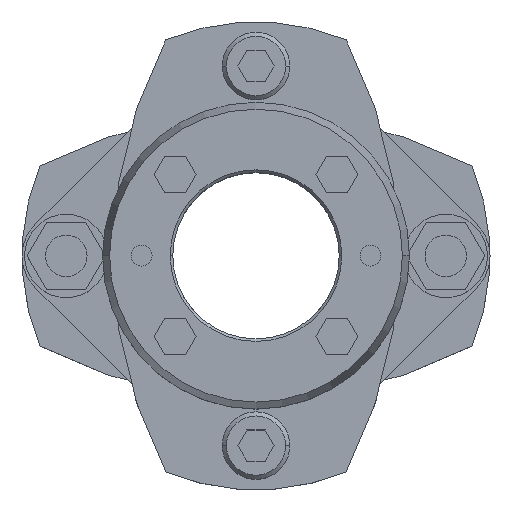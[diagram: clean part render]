
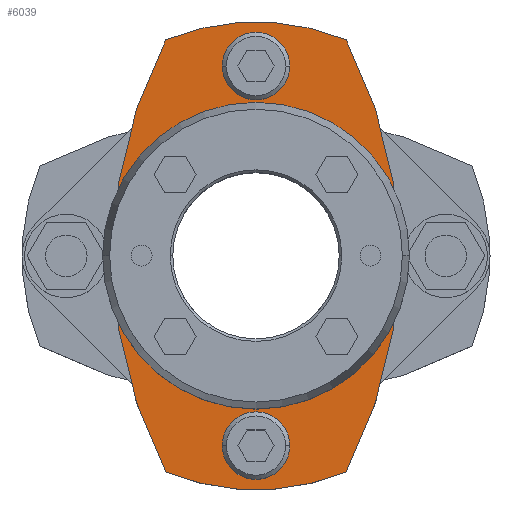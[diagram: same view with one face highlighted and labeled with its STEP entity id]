
A CAD part, top view. The second image highlights one B-rep face of the part: STEP entity #6039.
In plain terms, the highlighted planar face has unit normal (0, 0, 1).
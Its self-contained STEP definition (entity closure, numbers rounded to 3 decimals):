
#771=CARTESIAN_POINT('',(27.5,0.,14.25));
#772=VERTEX_POINT('',#771);
#781=CARTESIAN_POINT('',(17.35,-41.521,14.25));
#782=VERTEX_POINT('',#781);
#783=CARTESIAN_POINT('',(-62.5,0.,14.25));
#784=DIRECTION('',(0.0,0.0,-1.0));
#785=DIRECTION('',(-1.0,0.0,0.0));
#786=AXIS2_PLACEMENT_3D('',#783,#784,#785);
#787=CIRCLE('',#786,90.);
#788=EDGE_CURVE('',#772,#782,#787,.T.);
#815=CARTESIAN_POINT('',(-27.5,0.,14.25));
#816=VERTEX_POINT('',#815);
#832=CARTESIAN_POINT('',(-17.35,-41.521,14.25));
#833=VERTEX_POINT('',#832);
#840=CARTESIAN_POINT('',(62.5,0.,14.25));
#841=DIRECTION('',(0.0,0.0,-1.0));
#842=DIRECTION('',(-1.0,0.0,0.0));
#843=AXIS2_PLACEMENT_3D('',#840,#841,#842);
#844=CIRCLE('',#843,90.);
#845=EDGE_CURVE('',#833,#816,#844,.T.);
#1079=CARTESIAN_POINT('',(-26.,0.,14.25));
#1080=VERTEX_POINT('',#1079);
#1130=CARTESIAN_POINT('',(26.,0.,14.25));
#1131=VERTEX_POINT('',#1130);
#1138=CARTESIAN_POINT('',(0.,0.,14.25));
#1139=DIRECTION('',(0.0,0.0,-1.0));
#1140=DIRECTION('',(-1.0,0.0,0.0));
#1141=AXIS2_PLACEMENT_3D('',#1138,#1139,#1140);
#1142=CIRCLE('',#1141,26.0);
#1143=EDGE_CURVE('',#1080,#1131,#1142,.T.);
#1155=CARTESIAN_POINT('',(-6.5,-36.5,14.25));
#1156=VERTEX_POINT('',#1155);
#1172=CARTESIAN_POINT('',(6.5,-36.5,14.25));
#1173=VERTEX_POINT('',#1172);
#1180=CARTESIAN_POINT('',(0.,-36.5,14.25));
#1181=DIRECTION('',(0.0,0.0,-1.0));
#1182=DIRECTION('',(-1.0,0.0,0.0));
#1183=AXIS2_PLACEMENT_3D('',#1180,#1181,#1182);
#1184=CIRCLE('',#1183,6.5);
#1185=EDGE_CURVE('',#1156,#1173,#1184,.T.);
#1229=CARTESIAN_POINT('',(-6.5,36.5,14.25));
#1230=VERTEX_POINT('',#1229);
#1246=CARTESIAN_POINT('',(6.5,36.5,14.25));
#1247=VERTEX_POINT('',#1246);
#1254=CARTESIAN_POINT('',(0.,36.5,14.25));
#1255=DIRECTION('',(0.0,0.0,-1.0));
#1256=DIRECTION('',(-1.0,0.0,0.0));
#1257=AXIS2_PLACEMENT_3D('',#1254,#1255,#1256);
#1258=CIRCLE('',#1257,6.5);
#1259=EDGE_CURVE('',#1230,#1247,#1258,.T.);
#5458=CARTESIAN_POINT('',(0.,36.5,14.25));
#5459=DIRECTION('',(0.0,0.0,-1.0));
#5460=DIRECTION('',(-1.0,0.0,0.0));
#5461=AXIS2_PLACEMENT_3D('',#5458,#5459,#5460);
#5462=CIRCLE('',#5461,6.5);
#5463=EDGE_CURVE('',#1247,#1230,#5462,.T.);
#5518=CARTESIAN_POINT('',(0.,-36.5,14.25));
#5519=DIRECTION('',(0.0,0.0,-1.0));
#5520=DIRECTION('',(-1.0,0.0,0.0));
#5521=AXIS2_PLACEMENT_3D('',#5518,#5519,#5520);
#5522=CIRCLE('',#5521,6.5);
#5523=EDGE_CURVE('',#1173,#1156,#5522,.T.);
#5722=CARTESIAN_POINT('',(0.,0.,14.25));
#5723=DIRECTION('',(0.0,0.0,-1.0));
#5724=DIRECTION('',(-1.0,0.0,0.0));
#5725=AXIS2_PLACEMENT_3D('',#5722,#5723,#5724);
#5726=CIRCLE('',#5725,26.0);
#5727=EDGE_CURVE('',#1131,#1080,#5726,.T.);
#5933=CARTESIAN_POINT('',(0.,0.,14.25));
#5934=DIRECTION('',(0.0,0.0,-1.0));
#5935=DIRECTION('',(-1.0,0.0,0.0));
#5936=AXIS2_PLACEMENT_3D('',#5933,#5934,#5935);
#5937=CIRCLE('',#5936,45.);
#5938=EDGE_CURVE('',#782,#833,#5937,.T.);
#5952=CARTESIAN_POINT('',(-17.35,41.521,14.25));
#5953=VERTEX_POINT('',#5952);
#5954=CARTESIAN_POINT('',(62.5,0.,14.25));
#5955=DIRECTION('',(0.0,0.0,-1.0));
#5956=DIRECTION('',(-1.0,0.0,0.0));
#5957=AXIS2_PLACEMENT_3D('',#5954,#5955,#5956);
#5958=CIRCLE('',#5957,90.);
#5959=EDGE_CURVE('',#816,#5953,#5958,.T.);
#5976=CARTESIAN_POINT('',(17.35,41.521,14.25));
#5977=VERTEX_POINT('',#5976);
#5978=CARTESIAN_POINT('',(0.,0.,14.25));
#5979=DIRECTION('',(0.0,0.0,-1.0));
#5980=DIRECTION('',(-1.0,0.0,0.0));
#5981=AXIS2_PLACEMENT_3D('',#5978,#5979,#5980);
#5982=CIRCLE('',#5981,45.);
#5983=EDGE_CURVE('',#5953,#5977,#5982,.T.);
#6004=CARTESIAN_POINT('',(-62.5,0.,14.25));
#6005=DIRECTION('',(0.0,0.0,-1.0));
#6006=DIRECTION('',(-1.0,0.0,0.0));
#6007=AXIS2_PLACEMENT_3D('',#6004,#6005,#6006);
#6008=CIRCLE('',#6007,90.);
#6009=EDGE_CURVE('',#5977,#772,#6008,.T.);
#6014=CARTESIAN_POINT('',(0.,0.,14.25));
#6015=DIRECTION('',(0.0,0.0,1.0));
#6016=DIRECTION('',(-1.0,0.0,0.0));
#6017=AXIS2_PLACEMENT_3D('',#6014,#6015,#6016);
#6018=PLANE('',#6017);
#6019=ORIENTED_EDGE('',*,*,#5938,.F.);
#6020=ORIENTED_EDGE('',*,*,#788,.F.);
#6021=ORIENTED_EDGE('',*,*,#6009,.F.);
#6022=ORIENTED_EDGE('',*,*,#5983,.F.);
#6023=ORIENTED_EDGE('',*,*,#5959,.F.);
#6024=ORIENTED_EDGE('',*,*,#845,.F.);
#6025=EDGE_LOOP('',(#6019,#6020,#6021,#6022,#6023,#6024));
#6026=FACE_OUTER_BOUND('',#6025,.T.);
#6027=ORIENTED_EDGE('',*,*,#1185,.T.);
#6028=ORIENTED_EDGE('',*,*,#5523,.T.);
#6029=EDGE_LOOP('',(#6027,#6028));
#6030=FACE_BOUND('',#6029,.T.);
#6031=ORIENTED_EDGE('',*,*,#1259,.T.);
#6032=ORIENTED_EDGE('',*,*,#5463,.T.);
#6033=EDGE_LOOP('',(#6031,#6032));
#6034=FACE_BOUND('',#6033,.T.);
#6035=ORIENTED_EDGE('',*,*,#1143,.T.);
#6036=ORIENTED_EDGE('',*,*,#5727,.T.);
#6037=EDGE_LOOP('',(#6035,#6036));
#6038=FACE_BOUND('',#6037,.T.);
#6039=ADVANCED_FACE('',(#6026,#6030,#6034,#6038),#6018,.T.);
